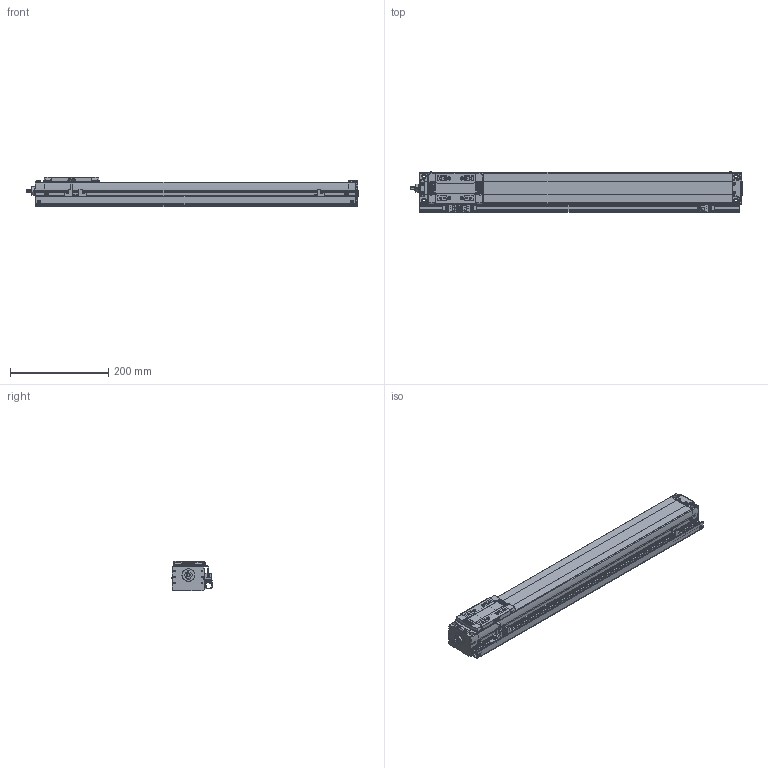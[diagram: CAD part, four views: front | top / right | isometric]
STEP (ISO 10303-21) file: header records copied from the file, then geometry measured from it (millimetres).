
FILE_DESCRIPTION(('STEP AP214'),'1');
FILE_NAME('Z:/Web/3D/SAN65/STP/SAN65ㅁㅁ-500+3SR.stp','2012-06-14T06:21:13',(' '),(' '),'Spatial InterOp 3D',' ',' ');
FILE_SCHEMA(('automotive_design'));
Length unit declared in the file: metre
Products named in the file (51): SAN65__-500; BODY-SAN65; REAR-SAN65; RRCV-SAN65; 스크루 : Round - M3.0 x 6.0; FRONT-SAN65; SHAFT-SAN65; RN8 x 0.75; SSFX-SAN65; SLIDE-SAN65; SLCV-SAN65; 스크루 : Countersunk - M3.0 x 6.0; ____197; 3SR; SRL-16x17-450L; - OT; EE-SX674; SBK-SX674-352; HOME; + OT; DOG; SDG-SAN65; 스크루 : Round - M3.0 x 5.0
Assembly tree (50 placements, depth 4):
  ____197
    SAN65__-500
      BODY-SAN65
      REAR-SAN65
        REAR-SAN65
        RRCV-SAN65
        스크루 : Round - M3.0 x 6.0
        스크루 : Round - M3.0 x 6.0
        스크루 : Round - M3.0 x 6.0
        스크루 : Round - M3.0 x 6.0
        스크루 : Round - M3.0 x 6.0
        스크루 : Round - M3.0 x 6.0
      FRONT-SAN65
        FRONT-SAN65
        SHAFT-SAN65
        RN8 x 0.75
        SSFX-SAN65
        스크루 : Round - M3.0 x 6.0
        스크루 : Round - M3.0 x 6.0
        스크루 : Round - M3.0 x 6.0
        스크루 : Round - M3.0 x 6.0
      SLIDE-SAN65
        SLIDE-SAN65
        SLCV-SAN65
        스크루 : Countersunk - M3.0 x 6.0
        스크루 : Countersunk - M3.0 x 6.0
        스크루 : Countersunk - M3.0 x 6.0
        스크루 : Countersunk - M3.0 x 6.0
    3SR
      SRL-16x17-450L
      스크루 : Round - M3.0 x 6.0
      스크루 : Round - M3.0 x 6.0
      - OT
        EE-SX674
        SBK-SX674-352
        스크루 : Round - M3.0 x 6.0
        스크루 : Round - M3.0 x 6.0
      HOME
        EE-SX674
        SBK-SX674-352
        스크루 : Round - M3.0 x 6.0
        스크루 : Round - M3.0 x 6.0
      + OT
        EE-SX674
        SBK-SX674-352
        스크루 : Round - M3.0 x 6.0
        스크루 : Round - M3.0 x 6.0
      DOG
        SDG-SAN65
        스크루 : Round - M3.0 x 5.0
        스크루 : Round - M3.0 x 5.0
Bounding box: 674.65 x 82.06 x 60 mm (x, y, z)
Volume: 2171876.5 mm3; surface area: 317396.8 mm2
Topology: 41 solids, 41 shells, 1893 faces, 4868 edges, 3176 vertices
Faces by surface type: plane 1244, cylinder 476, cone 97, sphere 32, bspline 26, torus 15, extrusion 3
Full cylindrical faces by diameter (mm): 0.571 x2, 0.706 x1, 1.727 x2, 2.132 x1, 2.2 x4, 2.5 x15, 2.528 x4, 3 x6, 3.121 x2, 3.3 x4, 3.4 x4, 3.5 x14, 4.2 x36, 4.849 x4, 5 x2, 5.5 x4, 5.987 x2, 6 x6, 6.5 x2, 7 x1, 8 x4, 9.5 x4, 13 x1, 15 x1, 19 x1
Entity records: 76291 total; most frequent: CARTESIAN_POINT 14376, DIRECTION 9515, ORIENTED_EDGE 9060, EDGE_CURVE 4530, VECTOR 3213, LINE 3210, AXIS2_PLACEMENT_3D 3151, VERTEX_POINT 3116
